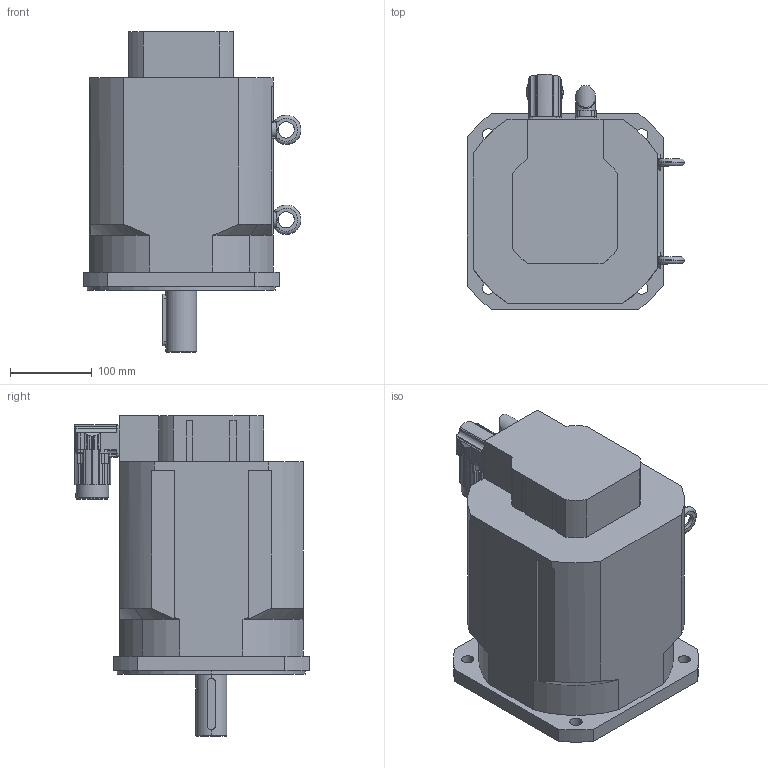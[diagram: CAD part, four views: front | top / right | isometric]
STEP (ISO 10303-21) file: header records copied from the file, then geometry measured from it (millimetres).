
FILE_DESCRIPTION(('STEP AP203'),'2;1');
FILE_NAME('MT8-0400_X.stp','2006-08-28T20:56:28',(''),(''),'2005.2.102','THINKDESIGN','');
FILE_SCHEMA(('CONFIG_CONTROL_DESIGN'));
Length unit declared in the file: millimetre
Bounding box: 266.5 x 287.18 x 392 mm (x, y, z)
Volume: 13497720.9 mm3; surface area: 410948.5 mm2
Topology: 5 solids, 5 shells, 535 faces, 1443 edges, 931 vertices
Faces by surface type: cylinder 259, plane 195, bspline 81
Full cylindrical faces by diameter (mm): 20 x2, 23 x1, 37.8 x1, 40 x1
Entity records: 19324 total; most frequent: CARTESIAN_POINT 5940, ORIENTED_EDGE 2878, DIRECTION 2777, EDGE_CURVE 1439, AXIS2_PLACEMENT_3D 1056, VERTEX_POINT 931, VECTOR 665, LINE 665
